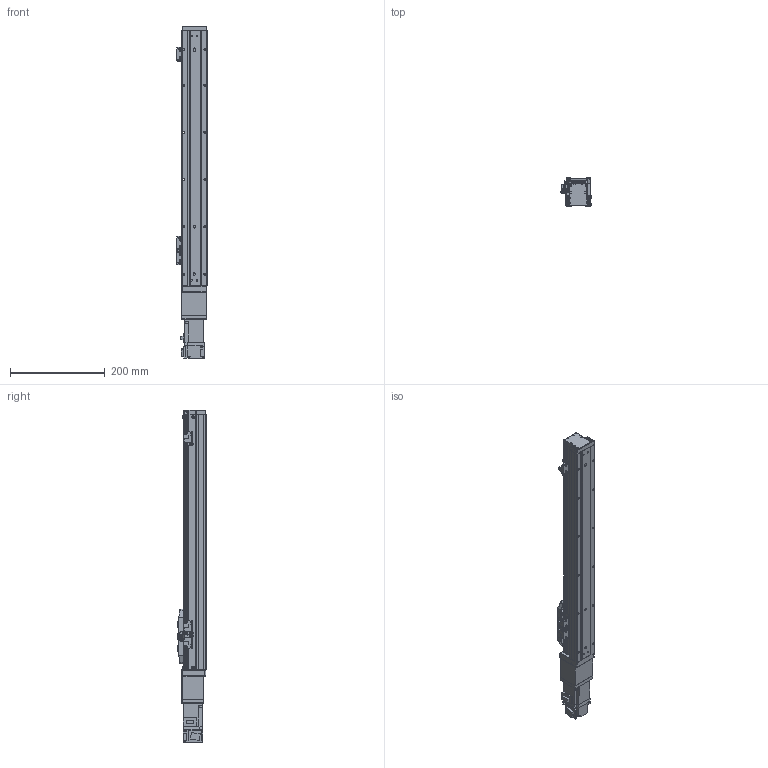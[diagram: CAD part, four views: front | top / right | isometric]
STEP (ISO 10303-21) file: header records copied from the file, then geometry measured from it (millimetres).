
FILE_DESCRIPTION (( 'STEP AP203' ), '1' );
FILE_NAME ('GTH5-400-BC-M10-C4.step', '2022-09-23T00:39:57', ( '微软用户' ), ( '微软中国' ), 'SwSTEP 2.0', 'SolidWorks 2020', '' );
FILE_SCHEMA (( 'CONFIG_CONTROL_DESIGN' ));
Length unit declared in the file: millimetre
Products named in the file (20): GTH50-024; HG-KR13; GBT 70.1-M4×16; GBT 70.1-M2.5×6; GTH5-400-BC-M10-C4; GTH50-003; GTH50-028; GTH50-006; GTH50-013; GTH50-022-1; GTH50-004; GTH50-023; CTHA60-027; GBT 70.3-M3℅6; GBT 70.1-M3℅6; CTHA60-013; BTH-M3X5X6; GBT96.1-2002 3×0.8; CTHA60-006-2_CTHA60-006-1; GTH50-001_400
Assembly tree (60 placements, depth 2):
  GTH5-400-BC-M10-C4
    GTH50-006
    GTH50-004
    GBT 70.3-M3℅6  x6
    BTH-M3X5X6  x8
    GTH50-001_400
    GBT 70.1-M4×16  x8
    GTH50-003
    GTH50-013
    GTH50-023  x3
    GBT 70.1-M3℅6  x12
    GBT96.1-2002 3×0.8  x6
    GTH50-024  x3
    GBT 70.1-M2.5×6  x2
    GTH50-028  x2
    GTH50-022-1
    CTHA60-027
    CTHA60-013
    CTHA60-006-2_CTHA60-006-1
    HG-KR13
Bounding box: 63.8 x 60 x 702.6 mm (x, y, z)
Volume: 1464769.5 mm3; surface area: 248240.3 mm2
Topology: 62 solids, 62 shells, 2045 faces, 4692 edges, 2862 vertices
Faces by surface type: plane 1105, cylinder 539, cone 235, torus 158, sphere 8
Entity records: 33959 total; most frequent: DIRECTION 5479, CARTESIAN_POINT 5367, ORIENTED_EDGE 5070, EDGE_CURVE 2535, AXIS2_PLACEMENT_3D 1880, LINE 1719, VECTOR 1719, VERTEX_POINT 1602
